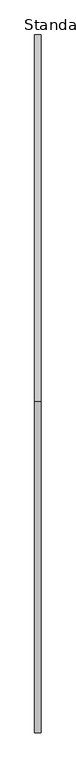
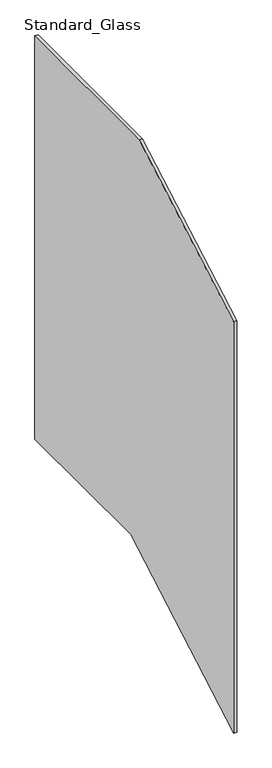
"""IFC4 building model written with IfcOpenShell, lengths in millimetres: railing geometry, Baluster-Landing-Panel-VIVA-VISIO-Lower : Standard_Glass."""

from ifc_helpers import new_model, si_unit, frame, origin, place, context, project, spatial, polyline, outline, extrude, source, transform, mapped, element, save


def standard_glass_7c6d0ad3(model_context):
    return source(origin(), model_context, "Body", "SweptSolid", [
        extrude(outline(polyline([(478.3569064, 1087.12), (1011.9470959, 1087.12), (1011.9470959, -172.4422867), (522.1421003, -172.4422867), (-5.0108793, -473.6129883), (-5.0108793, 810.9644611), (478.3569064, 1087.12)])), frame((33.3375, 0.0, 0.0), z_axis=(1.0, 0.0, 0.0), x_axis=(0.0, 1.0, 0.0)), (0.0, 0.0, 1.0), 9.525),
    ])


if __name__ == "__main__":
    model = new_model("IFC4")
    model_context = context("Model", 3, world=origin())
    ifc_project = project(units=[si_unit("LENGTHUNIT", "METRE", prefix="MILLI")], contexts=[model_context])
    site = spatial("IfcSite", under=ifc_project)
    building = spatial("IfcBuilding", under=site)
    placement = place(None, origin())
    standard_glass_shape = standard_glass_7c6d0ad3(model_context)
    element("IfcRailing", 1, ObjectType="Baluster-Landing-Panel-VIVA-VISIO-Lower : Standard_Glass", at=placement, inside=building, context=model_context, shape_type="MappedRepresentation", body=[
        mapped(standard_glass_shape, transform((0.0, 0.0, 0.0), x_axis=(1.0, 0.0, 0.0), y_axis=(0.0, 1.0, 0.0), z_axis=(0.0, 0.0, 1.0))),
    ])
    save(model, "model.ifc")
